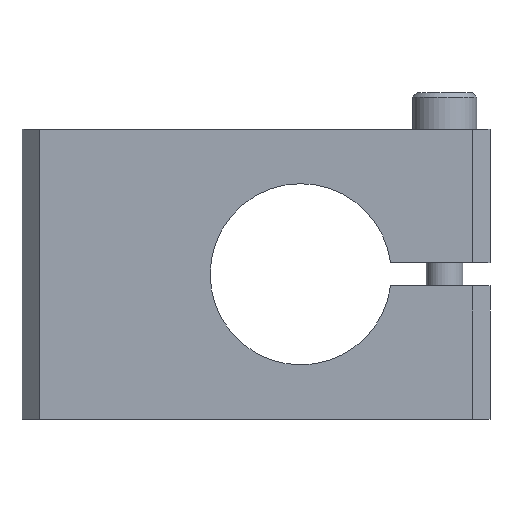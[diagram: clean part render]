
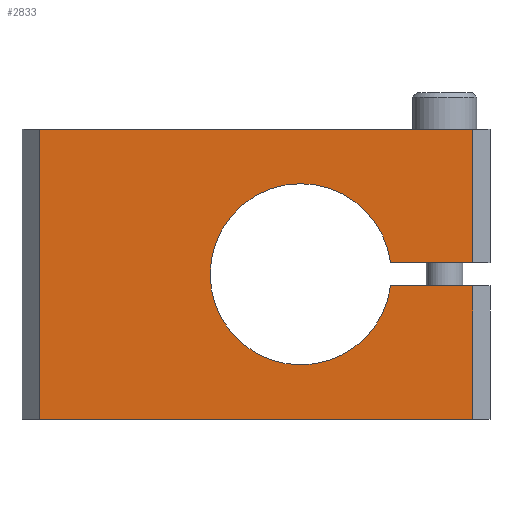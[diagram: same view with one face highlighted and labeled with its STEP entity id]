
A CAD part, front view. The second image highlights one B-rep face of the part: STEP entity #2833.
In plain terms, the highlighted planar face has unit normal (0, -1, 0).
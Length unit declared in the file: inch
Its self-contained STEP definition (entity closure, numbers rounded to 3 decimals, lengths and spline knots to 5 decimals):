
#591 = EDGE_CURVE ( 'NONE', #1646, #1652, #9453, .T. ) ;
#601 = EDGE_CURVE ( 'NONE', #1652, #1634, #9465, .T. ) ;
#638 = EDGE_CURVE ( 'NONE', #3199, #3196, #9513, .T. ) ;
#1634 = VERTEX_POINT ( 'NONE', #15086 ) ;
#1646 = VERTEX_POINT ( 'NONE', #15098 ) ;
#1652 = VERTEX_POINT ( 'NONE', #15104 ) ;
#1868 = EDGE_LOOP ( 'NONE', ( #1986, #1987, #1988, #1989, #1990, #1991, #1992, #1993, #1964, #1965 ) ) ;
#1964 = ORIENTED_EDGE ( 'NONE', *, *, #3490, .T. ) ;
#1965 = ORIENTED_EDGE ( 'NONE', *, *, #638, .T. ) ;
#1986 = ORIENTED_EDGE ( 'NONE', *, *, #3482, .F. ) ;
#1987 = ORIENTED_EDGE ( 'NONE', *, *, #3486, .T. ) ;
#1988 = ORIENTED_EDGE ( 'NONE', *, *, #3471, .F. ) ;
#1989 = ORIENTED_EDGE ( 'NONE', *, *, #3487, .T. ) ;
#1990 = ORIENTED_EDGE ( 'NONE', *, *, #3488, .T. ) ;
#1991 = ORIENTED_EDGE ( 'NONE', *, *, #3489, .T. ) ;
#1992 = ORIENTED_EDGE ( 'NONE', *, *, #591, .T. ) ;
#1993 = ORIENTED_EDGE ( 'NONE', *, *, #601, .T. ) ;
#2833 = ADVANCED_FACE ( 'NONE', ( #15866 ), #16536, .T. ) ;
#3189 = VERTEX_POINT ( 'NONE', #16749 ) ;
#3190 = VERTEX_POINT ( 'NONE', #16750 ) ;
#3195 = VERTEX_POINT ( 'NONE', #16755 ) ;
#3196 = VERTEX_POINT ( 'NONE', #16756 ) ;
#3197 = VERTEX_POINT ( 'NONE', #16757 ) ;
#3198 = VERTEX_POINT ( 'NONE', #16758 ) ;
#3199 = VERTEX_POINT ( 'NONE', #16759 ) ;
#3471 = EDGE_CURVE ( 'NONE', #3189, #3190, #16193, .T. ) ;
#3482 = EDGE_CURVE ( 'NONE', #3195, #3196, #16215, .T. ) ;
#3486 = EDGE_CURVE ( 'NONE', #3195, #3190, #16223, .T. ) ;
#3487 = EDGE_CURVE ( 'NONE', #3189, #3197, #16225, .T. ) ;
#3488 = EDGE_CURVE ( 'NONE', #3197, #3198, #16227, .T. ) ;
#3489 = EDGE_CURVE ( 'NONE', #3198, #1646, #16230, .T. ) ;
#3490 = EDGE_CURVE ( 'NONE', #1634, #3199, #16229, .T. ) ;
#6284 = AXIS2_PLACEMENT_3D ( 'NONE', #9944, #9945, #9946 ) ;
#6288 = AXIS2_PLACEMENT_3D ( 'NONE', #10002, #10003, #10004 ) ;
#9453 = CIRCLE ( 'NONE', #6284, 0.39 ) ;
#9465 = CIRCLE ( 'NONE', #6288, 0.39 ) ;
#9513 = LINE ( 'NONE', #10266, #9514 ) ;
#9514 = VECTOR ( 'NONE', #10267, 39.37008 ) ;
#9944 = CARTESIAN_POINT ( 'NONE',  ( 0.1925, 0., 0. ) ) ;
#9945 = DIRECTION ( 'NONE',  ( 0., 1., 0. ) ) ;
#9946 = DIRECTION ( 'NONE',  ( 0., 0., 1. ) ) ;
#10002 = CARTESIAN_POINT ( 'NONE',  ( 0.1925, 0., 0. ) ) ;
#10003 = DIRECTION ( 'NONE',  ( 0., 1., 0. ) ) ;
#10004 = DIRECTION ( 'NONE',  ( 0., 0., 1. ) ) ;
#10266 = CARTESIAN_POINT ( 'NONE',  ( 0.9325, 0., 0.625 ) ) ;
#10267 = DIRECTION ( 'NONE',  ( 0., 0., 1. ) ) ;
#13493 = AXIS2_PLACEMENT_3D ( 'NONE', #16537, #16538, #16539 ) ;
#13503 = AXIS2_PLACEMENT_3D ( 'NONE', #17655, #17656, #17657 ) ;
#15086 = CARTESIAN_POINT ( 'NONE',  ( 0.57928, 0., 0.05 ) ) ;
#15098 = CARTESIAN_POINT ( 'NONE',  ( 0.1925, 0., -0.39 ) ) ;
#15104 = CARTESIAN_POINT ( 'NONE',  ( 0.1925, 0., 0.39 ) ) ;
#15866 = FACE_OUTER_BOUND ( 'NONE', #1868, .T. ) ;
#16193 = LINE ( 'NONE', #17618, #16195 ) ;
#16195 = VECTOR ( 'NONE', #17619, 39.37008 ) ;
#16215 = LINE ( 'NONE', #17641, #16216 ) ;
#16216 = VECTOR ( 'NONE', #17642, 39.37008 ) ;
#16223 = LINE ( 'NONE', #17649, #16224 ) ;
#16224 = VECTOR ( 'NONE', #17650, 39.37008 ) ;
#16225 = LINE ( 'NONE', #17651, #16226 ) ;
#16226 = VECTOR ( 'NONE', #17652, 39.37008 ) ;
#16227 = LINE ( 'NONE', #17653, #16228 ) ;
#16228 = VECTOR ( 'NONE', #17654, 39.37008 ) ;
#16229 = LINE ( 'NONE', #17658, #16231 ) ;
#16230 = CIRCLE ( 'NONE', #13503, 0.39 ) ;
#16231 = VECTOR ( 'NONE', #17659, 39.37008 ) ;
#16536 = PLANE ( 'NONE',  #13493 ) ;
#16537 = CARTESIAN_POINT ( 'NONE',  ( 1.0075, 0., -0.625 ) ) ;
#16538 = DIRECTION ( 'NONE',  ( 0., -1., 0. ) ) ;
#16539 = DIRECTION ( 'NONE',  ( 0., 0., -1. ) ) ;
#16749 = CARTESIAN_POINT ( 'NONE',  ( 0.9325, 0., -0.625 ) ) ;
#16750 = CARTESIAN_POINT ( 'NONE',  ( -0.9325, 0., -0.625 ) ) ;
#16755 = CARTESIAN_POINT ( 'NONE',  ( -0.9325, 0., 0.625 ) ) ;
#16756 = CARTESIAN_POINT ( 'NONE',  ( 0.9325, 0., 0.625 ) ) ;
#16757 = CARTESIAN_POINT ( 'NONE',  ( 0.9325, 0., -0.05 ) ) ;
#16758 = CARTESIAN_POINT ( 'NONE',  ( 0.57928, 0., -0.05 ) ) ;
#16759 = CARTESIAN_POINT ( 'NONE',  ( 0.9325, 0., 0.05 ) ) ;
#17618 = CARTESIAN_POINT ( 'NONE',  ( -1.0075, 0., -0.625 ) ) ;
#17619 = DIRECTION ( 'NONE',  ( -1., 0., 0. ) ) ;
#17641 = CARTESIAN_POINT ( 'NONE',  ( -1.0075, 0., 0.625 ) ) ;
#17642 = DIRECTION ( 'NONE',  ( 1., 0., 0. ) ) ;
#17649 = CARTESIAN_POINT ( 'NONE',  ( -0.9325, 0., -0.625 ) ) ;
#17650 = DIRECTION ( 'NONE',  ( 0., 0., -1. ) ) ;
#17651 = CARTESIAN_POINT ( 'NONE',  ( 0.9325, 0., -0.05 ) ) ;
#17652 = DIRECTION ( 'NONE',  ( 0., 0., 1. ) ) ;
#17653 = CARTESIAN_POINT ( 'NONE',  ( 1.61943, 0., -0.05 ) ) ;
#17654 = DIRECTION ( 'NONE',  ( -1., 0., 0. ) ) ;
#17655 = CARTESIAN_POINT ( 'NONE',  ( 0.1925, 0., 0. ) ) ;
#17656 = DIRECTION ( 'NONE',  ( 0., 1., 0. ) ) ;
#17657 = DIRECTION ( 'NONE',  ( 0., 0., 1. ) ) ;
#17658 = CARTESIAN_POINT ( 'NONE',  ( 1.61943, 0., 0.05 ) ) ;
#17659 = DIRECTION ( 'NONE',  ( 1., 0., 0. ) ) ;
